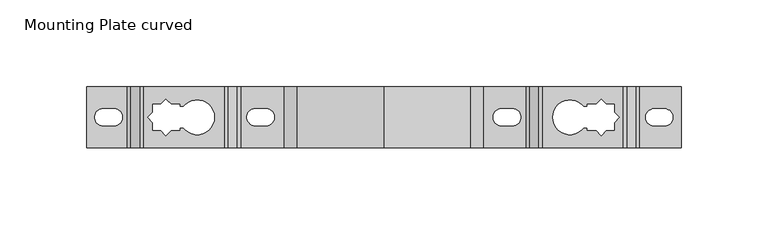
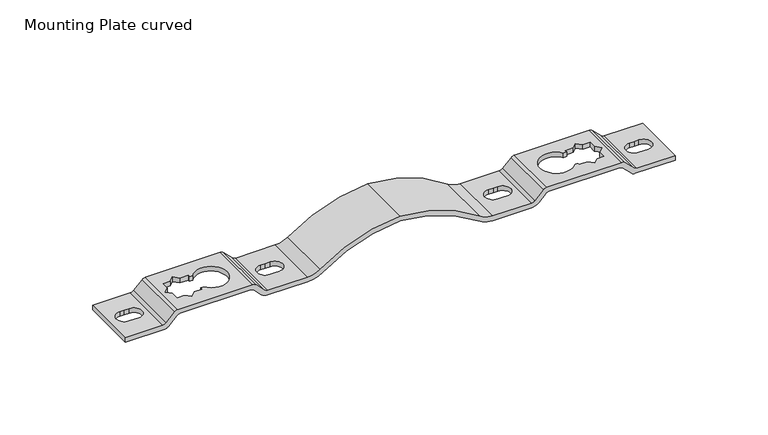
"""IFC4 building model written with IfcOpenShell, lengths in millimetres: valve geometry, Mounting Plate curved : Superpipe Mounting Plate - 250 mm curved."""

from ifc_helpers import new_model, si_unit, frame, origin, place, context, project, spatial, polyline, circle_curve, source, transform, mapped, element, save
from ifc_brep_helpers import plane_surface, cylinder_surface, revolved_surface, advanced_brep


def mounting_plate_curved_ba3850a4(model_context):
    return source(origin(), model_context, "Body", "AdvancedBrep", [
        advanced_brep(
        [(0.0, 0.0, 3.0), (0.0, 0.0, 0.0), (24.5, 0.0, 0.0), (26.6213203, 0.0, 0.8786797), (31.863961, 0.0, 6.1213203), (33.9852814, 0.0, 7.0), (78.0147186, 0.0, 7.0), (80.136039, 0.0, 6.1213203), (84.5, 0.0, 1.7573593), (88.7426407, 0.0, 0.0), (113.5579962, 0.0, 0.0), (122.9363512, 0.0, 3.0367266), (171.0, 0.0, 19.9960509), (219.0636488, 0.0, 3.0367266), (228.4420038, 0.0, 0.0), (252.7573593, 0.0, 0.0), (257.0, 0.0, 1.7573593), (261.363961, 0.0, 6.1213203), (263.4852814, 0.0, 7.0), (307.5147186, 0.0, 7.0), (309.636039, 0.0, 6.1213203), (314.8786797, 0.0, 0.8786797), (317.0, 0.0, 0.0), (342.0, 0.0, 0.0), (342.0, 0.0, 3.0), (318.2426407, 0.0, 3.0), (316.1213203, 0.0, 3.8786797), (310.8786797, 0.0, 9.1213203), (308.7573593, 0.0, 10.0), (262.2426407, 0.0, 10.0), (260.1213203, 0.0, 9.1213203), (254.8786797, 0.0, 3.8786797), (252.7573593, 0.0, 3.0), (228.4420038, 0.0, 3.0), (220.8220904, 0.0, 5.4673403), (171.0, 0.0, 23.0), (121.1779096, 0.0, 5.4673403), (113.5579962, 0.0, 3.0), (88.7426407, 0.0, 3.0), (86.6213203, 0.0, 3.8786797), (81.3786797, 0.0, 9.1213203), (79.2573593, 0.0, 10.0), (32.7426407, 0.0, 10.0), (30.6213203, 0.0, 9.1213203), (25.3786797, 0.0, 3.8786797), (23.2573593, 0.0, 3.0), (0.0, 35.0, 3.0), (23.2573593, 35.0, 3.0), (25.3786797, 35.0, 3.8786797), (30.6213203, 35.0, 9.1213203), (32.7426407, 35.0, 10.0), (79.2573593, 35.0, 10.0), (81.3786797, 35.0, 9.1213203), (86.6213203, 35.0, 3.8786797), (88.7426407, 35.0, 3.0), (113.5579962, 35.0, 3.0), (121.1779096, 35.0, 5.4673403), (171.0, 35.0, 23.0), (220.8220904, 35.0, 5.4673403), (228.4420038, 35.0, 3.0), (252.7573593, 35.0, 3.0), (254.8786797, 35.0, 3.8786797), (260.1213203, 35.0, 9.1213203), (262.2426407, 35.0, 10.0), (308.7573593, 35.0, 10.0), (310.8786797, 35.0, 9.1213203), (316.1213203, 35.0, 3.8786797), (318.2426407, 35.0, 3.0), (342.0, 35.0, 3.0), (342.0, 35.0, 0.0), (317.0, 35.0, 0.0), (314.8786797, 35.0, 0.8786797), (309.636039, 35.0, 6.1213203), (307.5147186, 35.0, 7.0), (263.4852814, 35.0, 7.0), (261.363961, 35.0, 6.1213203), (257.0, 35.0, 1.7573593), (252.7573593, 35.0, 0.0), (228.4420038, 35.0, 0.0), (219.0636488, 35.0, 3.0367266), (171.0, 35.0, 19.9960509), (122.9363512, 35.0, 3.0367266), (113.5579962, 35.0, 0.0), (88.7426407, 35.0, 0.0), (84.5, 35.0, 1.7573593), (80.136039, 35.0, 6.1213203), (78.0147186, 35.0, 7.0), (33.9852814, 35.0, 7.0), (31.863961, 35.0, 6.1213203), (26.6213203, 35.0, 0.8786797), (24.5, 35.0, 0.0), (0.0, 35.0, 0.0), (9.4921718, 22.5347729, 0.0), (9.4921718, 12.5504293, 0.0), (12.4921718, 12.5504293, 0.0), (15.4921718, 12.5504293, 0.0), (15.4921718, 22.5347729, 0.0), (12.4921718, 22.5347729, 0.0), (38.0, 25.0, 7.0), (38.0, 20.5, 7.0), (35.0, 17.5, 7.0), (38.0, 14.5, 7.0), (38.0, 9.9308526, 7.0), (42.4308572, 9.9308526, 7.0), (45.4308572, 6.9652271, 7.0), (48.4308572, 10.0, 7.0), (53.4308572, 10.0, 7.0), (53.4308572, 11.5, 7.0), (55.4343797, 11.5, 7.0), (55.4343797, 23.5, 7.0), (53.4308572, 23.5, 7.0), (53.4308572, 25.0, 7.0), (48.4308572, 25.0, 7.0), (45.4308572, 27.9652271, 7.0), (42.5, 25.0, 7.0), (97.0, 22.5347729, 0.0), (97.0, 12.6008585, 0.0), (100.0, 12.6008585, 0.0), (103.0330428, 12.6008585, 0.0), (103.0330428, 22.5347729, 0.0), (100.0, 22.5347729, 0.0), (244.75, 12.5, 0.0), (244.75, 22.5, 0.0), (241.75, 22.5, 0.0), (238.75, 22.5, 0.0), (238.75, 12.5, 0.0), (241.75, 12.5, 0.0), (303.4573426, 20.5, 7.0), (303.4573426, 25.0, 7.0), (298.9573426, 25.0, 7.0), (296.0264854, 27.9652271, 7.0), (293.0264854, 25.0, 7.0), (288.0264854, 25.0, 7.0), (288.0264854, 23.5, 7.0), (286.022963, 23.5, 7.0), (286.022963, 11.5, 7.0), (288.0264854, 11.5, 7.0), (288.0264854, 10.0, 7.0), (293.0264854, 10.0, 7.0), (296.0264854, 6.9652271, 7.0), (299.0264854, 9.9308526, 7.0), (303.4573426, 9.9308526, 7.0), (303.4573426, 14.5, 7.0), (306.4573426, 17.5, 7.0), (332.4243561, 12.5504293, 0.0), (332.4243561, 22.3991415, 0.0), (329.4243561, 22.3991415, 0.0), (326.4243561, 22.3991415, 0.0), (326.4243561, 12.5504293, 0.0), (329.4243561, 12.5504293, 0.0), (332.4243561, 22.3991415, 3.0), (332.4243561, 12.5504293, 3.0), (329.4243561, 12.5504293, 3.0), (326.4243561, 12.5504293, 3.0), (326.4243561, 22.3991415, 3.0), (329.4243561, 22.3991415, 3.0), (303.4573426, 25.0, 10.0), (303.4573426, 20.5, 10.0), (306.4573426, 17.5, 10.0), (303.4573426, 14.5, 10.0), (303.4573426, 9.9308526, 10.0), (299.0264854, 9.9308526, 10.0), (296.0264854, 6.9652271, 10.0), (293.0264854, 10.0, 10.0), (288.0264854, 10.0, 10.0), (288.0264854, 11.5, 10.0), (286.022963, 11.5, 10.0), (286.022963, 23.5, 10.0), (288.0264854, 23.5, 10.0), (288.0264854, 25.0, 10.0), (293.0264854, 25.0, 10.0), (296.0264854, 27.9652271, 10.0), (298.9573426, 25.0, 10.0), (244.75, 22.5, 3.0), (244.75, 12.5, 3.0), (241.75, 12.5, 3.0), (238.75, 12.5, 3.0), (238.75, 22.5, 3.0), (241.75, 22.5, 3.0), (97.0, 12.6008585, 3.0), (97.0, 22.5347729, 3.0), (100.0, 22.5347729, 3.0), (103.0330428, 22.5347729, 3.0), (103.0330428, 12.6008585, 3.0), (100.0, 12.6008585, 3.0), (38.0, 20.5, 10.0), (38.0, 25.0, 10.0), (42.5, 25.0, 10.0), (45.4308572, 27.9652271, 10.0), (48.4308572, 25.0, 10.0), (53.4308572, 25.0, 10.0), (53.4308572, 23.5, 10.0), (55.4343797, 23.5, 10.0), (55.4343797, 11.5, 10.0), (53.4308572, 11.5, 10.0), (53.4308572, 10.0, 10.0), (48.4308572, 10.0, 10.0), (45.4308572, 6.9652271, 10.0), (42.4308572, 9.9308526, 10.0), (38.0, 9.9308526, 10.0), (38.0, 14.5, 10.0), (35.0, 17.5, 10.0), (9.4921718, 12.5504293, 3.0), (9.4921718, 22.5347729, 3.0), (12.4921718, 22.5347729, 3.0), (15.4921718, 22.5347729, 3.0), (15.4921718, 12.5504293, 3.0), (12.4921718, 12.5504293, 3.0)],
        [
            (0, 1),
            (1, 2),
            (2, 3, circle_curve(frame((24.5, 0.0, 3.0), z_axis=(0.0, -1.0, 0.0), x_axis=(1.0, 0.0, 0.0)), 3.0)),
            (3, 4),
            (4, 5, circle_curve(frame((33.9852814, 0.0, 4.0), z_axis=(0.0, 1.0, 0.0), x_axis=(1.0, 0.0, 0.0)), 3.0)),
            (5, 6),
            (6, 7, circle_curve(frame((78.0147186, 0.0, 4.0), z_axis=(0.0, 1.0, 0.0), x_axis=(1.0, 0.0, 0.0)), 3.0)),
            (7, 8),
            (8, 9, circle_curve(frame((88.7426407, 0.0, 6.0), z_axis=(0.0, -1.0, 0.0), x_axis=(1.0, 0.0, 0.0)), 6.0)),
            (9, 10),
            (10, 11, circle_curve(frame((113.5579962, 0.0, 16.0), z_axis=(0.0, -1.0, 0.0), x_axis=(1.0, 0.0, 0.0)), 16.0)),
            (11, 12, circle_curve(frame((175.689598, 0.0, -69.8816864), z_axis=(0.0, 1.0, 0.0), x_axis=(1.0, 0.0, 0.0)), 90.0)),
            (12, 13, circle_curve(frame((166.310402, 0.0, -69.8816864), z_axis=(0.0, 1.0, 0.0), x_axis=(1.0, 0.0, 0.0)), 90.0)),
            (13, 14, circle_curve(frame((228.4420038, 0.0, 16.0), z_axis=(0.0, -1.0, 0.0), x_axis=(1.0, 0.0, 0.0)), 16.0)),
            (14, 15),
            (15, 16, circle_curve(frame((252.7573593, 0.0, 6.0), z_axis=(0.0, -1.0, 0.0), x_axis=(1.0, 0.0, 0.0)), 6.0)),
            (16, 17),
            (17, 18, circle_curve(frame((263.4852814, 0.0, 4.0), z_axis=(0.0, 1.0, 0.0), x_axis=(1.0, 0.0, 0.0)), 3.0)),
            (18, 19),
            (19, 20, circle_curve(frame((307.5147186, 0.0, 4.0), z_axis=(0.0, 1.0, 0.0), x_axis=(1.0, 0.0, 0.0)), 3.0)),
            (20, 21),
            (21, 22, circle_curve(frame((317.0, 0.0, 3.0), z_axis=(0.0, -1.0, 0.0), x_axis=(1.0, 0.0, 0.0)), 3.0)),
            (22, 23),
            (23, 24),
            (24, 25),
            (25, 26, circle_curve(frame((318.2426407, 0.0, 6.0), z_axis=(0.0, 1.0, 0.0), x_axis=(1.0, 0.0, 0.0)), 3.0)),
            (26, 27),
            (27, 28, circle_curve(frame((308.7573593, 0.0, 7.0), z_axis=(0.0, -1.0, 0.0), x_axis=(1.0, 0.0, 0.0)), 3.0)),
            (28, 29),
            (29, 30, circle_curve(frame((262.2426407, 0.0, 7.0), z_axis=(0.0, -1.0, 0.0), x_axis=(1.0, 0.0, 0.0)), 3.0)),
            (30, 31),
            (31, 32, circle_curve(frame((252.7573593, 0.0, 6.0), z_axis=(0.0, 1.0, 0.0), x_axis=(1.0, 0.0, 0.0)), 3.0)),
            (32, 33),
            (33, 34, circle_curve(frame((228.4420038, 0.0, 16.0), z_axis=(0.0, 1.0, 0.0), x_axis=(1.0, 0.0, 0.0)), 13.0)),
            (34, 35, circle_curve(frame((166.310402, 0.0, -69.8816864), z_axis=(0.0, -1.0, 0.0), x_axis=(1.0, 0.0, 0.0)), 93.0)),
            (35, 36, circle_curve(frame((175.689598, 0.0, -69.8816864), z_axis=(0.0, -1.0, 0.0), x_axis=(1.0, 0.0, 0.0)), 93.0)),
            (36, 37, circle_curve(frame((113.5579962, 0.0, 16.0), z_axis=(0.0, 1.0, 0.0), x_axis=(1.0, 0.0, 0.0)), 13.0)),
            (37, 38),
            (38, 39, circle_curve(frame((88.7426407, 0.0, 6.0), z_axis=(0.0, 1.0, 0.0), x_axis=(1.0, 0.0, 0.0)), 3.0)),
            (39, 40),
            (40, 41, circle_curve(frame((79.2573593, 0.0, 7.0), z_axis=(0.0, -1.0, 0.0), x_axis=(1.0, 0.0, 0.0)), 3.0)),
            (41, 42),
            (42, 43, circle_curve(frame((32.7426407, 0.0, 7.0), z_axis=(0.0, -1.0, 0.0), x_axis=(1.0, 0.0, 0.0)), 3.0)),
            (43, 44),
            (44, 45, circle_curve(frame((23.2573593, 0.0, 6.0), z_axis=(0.0, 1.0, 0.0), x_axis=(1.0, 0.0, 0.0)), 3.0)),
            (45, 0),
            (46, 47),
            (47, 48, circle_curve(frame((23.2573593, 35.0, 6.0), z_axis=(0.0, -1.0, 0.0), x_axis=(1.0, 0.0, 0.0)), 3.0)),
            (48, 49),
            (49, 50, circle_curve(frame((32.7426407, 35.0, 7.0), z_axis=(0.0, 1.0, 0.0), x_axis=(1.0, 0.0, 0.0)), 3.0)),
            (50, 51),
            (51, 52, circle_curve(frame((79.2573593, 35.0, 7.0), z_axis=(0.0, 1.0, 0.0), x_axis=(1.0, 0.0, 0.0)), 3.0)),
            (52, 53),
            (53, 54, circle_curve(frame((88.7426407, 35.0, 6.0), z_axis=(0.0, -1.0, 0.0), x_axis=(1.0, 0.0, 0.0)), 3.0)),
            (54, 55),
            (55, 56, circle_curve(frame((113.5579962, 35.0, 16.0), z_axis=(0.0, -1.0, 0.0), x_axis=(1.0, 0.0, 0.0)), 13.0)),
            (56, 57, circle_curve(frame((175.689598, 35.0, -69.8816864), z_axis=(0.0, 1.0, 0.0), x_axis=(1.0, 0.0, 0.0)), 93.0)),
            (57, 58, circle_curve(frame((166.310402, 35.0, -69.8816864), z_axis=(0.0, 1.0, 0.0), x_axis=(1.0, 0.0, 0.0)), 93.0)),
            (58, 59, circle_curve(frame((228.4420038, 35.0, 16.0), z_axis=(0.0, -1.0, 0.0), x_axis=(1.0, 0.0, 0.0)), 13.0)),
            (59, 60),
            (60, 61, circle_curve(frame((252.7573593, 35.0, 6.0), z_axis=(0.0, -1.0, 0.0), x_axis=(1.0, 0.0, 0.0)), 3.0)),
            (61, 62),
            (62, 63, circle_curve(frame((262.2426407, 35.0, 7.0), z_axis=(0.0, 1.0, 0.0), x_axis=(1.0, 0.0, 0.0)), 3.0)),
            (63, 64),
            (64, 65, circle_curve(frame((308.7573593, 35.0, 7.0), z_axis=(0.0, 1.0, 0.0), x_axis=(1.0, 0.0, 0.0)), 3.0)),
            (65, 66),
            (66, 67, circle_curve(frame((318.2426407, 35.0, 6.0), z_axis=(0.0, -1.0, 0.0), x_axis=(1.0, 0.0, 0.0)), 3.0)),
            (67, 68),
            (68, 69),
            (69, 70),
            (70, 71, circle_curve(frame((317.0, 35.0, 3.0), z_axis=(0.0, 1.0, 0.0), x_axis=(1.0, 0.0, 0.0)), 3.0)),
            (71, 72),
            (72, 73, circle_curve(frame((307.5147186, 35.0, 4.0), z_axis=(0.0, -1.0, 0.0), x_axis=(1.0, 0.0, 0.0)), 3.0)),
            (73, 74),
            (74, 75, circle_curve(frame((263.4852814, 35.0, 4.0), z_axis=(0.0, -1.0, 0.0), x_axis=(1.0, 0.0, 0.0)), 3.0)),
            (75, 76),
            (76, 77, circle_curve(frame((252.7573593, 35.0, 6.0), z_axis=(0.0, 1.0, 0.0), x_axis=(1.0, 0.0, 0.0)), 6.0)),
            (77, 78),
            (78, 79, circle_curve(frame((228.4420038, 35.0, 16.0), z_axis=(0.0, 1.0, 0.0), x_axis=(1.0, 0.0, 0.0)), 16.0)),
            (79, 80, circle_curve(frame((166.310402, 35.0, -69.8816864), z_axis=(0.0, -1.0, 0.0), x_axis=(1.0, 0.0, 0.0)), 90.0)),
            (80, 81, circle_curve(frame((175.689598, 35.0, -69.8816864), z_axis=(0.0, -1.0, 0.0), x_axis=(1.0, 0.0, 0.0)), 90.0)),
            (81, 82, circle_curve(frame((113.5579962, 35.0, 16.0), z_axis=(0.0, 1.0, 0.0), x_axis=(1.0, 0.0, 0.0)), 16.0)),
            (82, 83),
            (83, 84, circle_curve(frame((88.7426407, 35.0, 6.0), z_axis=(0.0, 1.0, 0.0), x_axis=(1.0, 0.0, 0.0)), 6.0)),
            (84, 85),
            (85, 86, circle_curve(frame((78.0147186, 35.0, 4.0), z_axis=(0.0, -1.0, 0.0), x_axis=(1.0, 0.0, 0.0)), 3.0)),
            (86, 87),
            (87, 88, circle_curve(frame((33.9852814, 35.0, 4.0), z_axis=(0.0, -1.0, 0.0), x_axis=(1.0, 0.0, 0.0)), 3.0)),
            (88, 89),
            (89, 90, circle_curve(frame((24.5, 35.0, 3.0), z_axis=(0.0, 1.0, 0.0), x_axis=(1.0, 0.0, 0.0)), 3.0)),
            (90, 91),
            (91, 46),
            (0, 46),
            (91, 1),
            (90, 2),
            (92, 93, circle_curve(frame((9.4921718, 17.5426011, 0.0), z_axis=(0.0, 0.0, 1.0), x_axis=(1.0, 0.0, 0.0)), 4.9921718)),
            (93, 94),
            (94, 95),
            (95, 96, circle_curve(frame((15.4921718, 17.5426011, 0.0), z_axis=(0.0, 0.0, 1.0), x_axis=(1.0, 0.0, 0.0)), 4.9921718)),
            (96, 97),
            (97, 92),
            (89, 3),
            (88, 4),
            (87, 5),
            (86, 6),
            (98, 99),
            (99, 100),
            (100, 101),
            (101, 102),
            (102, 103),
            (103, 104),
            (104, 105),
            (105, 106),
            (106, 107),
            (107, 108),
            (108, 109, circle_curve(frame((63.4095897, 17.5, 7.0), z_axis=(0.0, 0.0, 1.0), x_axis=(-1.0, 0.0, 0.0)), 9.9801791)),
            (109, 110),
            (110, 111),
            (111, 112),
            (112, 113),
            (113, 114),
            (114, 98),
            (85, 7),
            (84, 8),
            (83, 9),
            (82, 10),
            (115, 116, circle_curve(frame((97.0, 17.5678157, 0.0), z_axis=(0.0, 0.0, 1.0), x_axis=(1.0, 0.0, 0.0)), 4.9669572)),
            (116, 117),
            (117, 118),
            (118, 119, circle_curve(frame((103.0330428, 17.5678157, 0.0), z_axis=(0.0, 0.0, 1.0), x_axis=(1.0, 0.0, 0.0)), 4.9669572)),
            (119, 120),
            (120, 115),
            (81, 11),
            (80, 12),
            (79, 13),
            (78, 14),
            (77, 15),
            (121, 122, circle_curve(frame((244.75, 17.5, 0.0), z_axis=(0.0, 0.0, 1.0), x_axis=(-1.0, 0.0, 0.0)), 5.0)),
            (122, 123),
            (123, 124),
            (124, 125, circle_curve(frame((238.75, 17.5, 0.0), z_axis=(0.0, 0.0, 1.0), x_axis=(-1.0, 0.0, 0.0)), 5.0)),
            (125, 126),
            (126, 121),
            (76, 16),
            (75, 17),
            (74, 18),
            (73, 19),
            (127, 128),
            (128, 129),
            (129, 130),
            (130, 131),
            (131, 132),
            (132, 133),
            (133, 134),
            (134, 135, circle_curve(frame((278.0477529, 17.5, 7.0), z_axis=(0.0, 0.0, 1.0), x_axis=(1.0, 0.0, 0.0)), 9.9801791)),
            (135, 136),
            (136, 137),
            (137, 138),
            (138, 139),
            (139, 140),
            (140, 141),
            (141, 142),
            (142, 143),
            (143, 127),
            (72, 20),
            (71, 21),
            (70, 22),
            (69, 23),
            (144, 145, circle_curve(frame((332.4243561, 17.4747854, 0.0), z_axis=(0.0, 0.0, 1.0), x_axis=(-1.0, 0.0, 0.0)), 4.9243561)),
            (145, 146),
            (146, 147),
            (147, 148, circle_curve(frame((326.4243561, 17.4747854, 0.0), z_axis=(0.0, 0.0, 1.0), x_axis=(-1.0, 0.0, 0.0)), 4.9243561)),
            (148, 149),
            (149, 144),
            (68, 24),
            (67, 25),
            (150, 151, circle_curve(frame((332.4243561, 17.4747854, 3.0), z_axis=(0.0, 0.0, -1.0), x_axis=(-1.0, 0.0, 0.0)), 4.9243561)),
            (151, 152),
            (152, 153),
            (153, 154, circle_curve(frame((326.4243561, 17.4747854, 3.0), z_axis=(0.0, 0.0, -1.0), x_axis=(-1.0, 0.0, 0.0)), 4.9243561)),
            (154, 155),
            (155, 150),
            (66, 26),
            (65, 27),
            (64, 28),
            (63, 29),
            (156, 157),
            (157, 158),
            (158, 159),
            (159, 160),
            (160, 161),
            (161, 162),
            (162, 163),
            (163, 164),
            (164, 165),
            (165, 166),
            (166, 167, circle_curve(frame((278.0477529, 17.5, 10.0), z_axis=(0.0, 0.0, -1.0), x_axis=(1.0, 0.0, 0.0)), 9.9801791)),
            (167, 168),
            (168, 169),
            (169, 170),
            (170, 171),
            (171, 172),
            (172, 156),
            (62, 30),
            (61, 31),
            (60, 32),
            (59, 33),
            (173, 174, circle_curve(frame((244.75, 17.5, 3.0), z_axis=(0.0, 0.0, -1.0), x_axis=(-1.0, 0.0, 0.0)), 5.0)),
            (174, 175),
            (175, 176),
            (176, 177, circle_curve(frame((238.75, 17.5, 3.0), z_axis=(0.0, 0.0, -1.0), x_axis=(-1.0, 0.0, 0.0)), 5.0)),
            (177, 178),
            (178, 173),
            (58, 34),
            (57, 35),
            (56, 36),
            (55, 37),
            (54, 38),
            (179, 180, circle_curve(frame((97.0, 17.5678157, 3.0), z_axis=(0.0, 0.0, -1.0), x_axis=(1.0, 0.0, 0.0)), 4.9669572)),
            (180, 181),
            (181, 182),
            (182, 183, circle_curve(frame((103.0330428, 17.5678157, 3.0), z_axis=(0.0, 0.0, -1.0), x_axis=(1.0, 0.0, 0.0)), 4.9669572)),
            (183, 184),
            (184, 179),
            (53, 39),
            (52, 40),
            (51, 41),
            (50, 42),
            (185, 186),
            (186, 187),
            (187, 188),
            (188, 189),
            (189, 190),
            (190, 191),
            (191, 192),
            (192, 193, circle_curve(frame((63.4095897, 17.5, 10.0), z_axis=(0.0, 0.0, -1.0), x_axis=(-1.0, 0.0, 0.0)), 9.9801791)),
            (193, 194),
            (194, 195),
            (195, 196),
            (196, 197),
            (197, 198),
            (198, 199),
            (199, 200),
            (200, 201),
            (201, 185),
            (49, 43),
            (48, 44),
            (47, 45),
            (202, 203, circle_curve(frame((9.4921718, 17.5426011, 3.0), z_axis=(0.0, 0.0, -1.0), x_axis=(1.0, 0.0, 0.0)), 4.9921718)),
            (203, 204),
            (204, 205),
            (205, 206, circle_curve(frame((15.4921718, 17.5426011, 3.0), z_axis=(0.0, 0.0, -1.0), x_axis=(1.0, 0.0, 0.0)), 4.9921718)),
            (206, 207),
            (207, 202),
            (202, 93),
            (92, 203),
            (207, 94),
            (206, 95),
            (205, 96),
            (204, 97),
            (185, 99),
            (98, 186),
            (114, 187),
            (113, 188),
            (112, 189),
            (111, 190),
            (191, 110),
            (109, 192),
            (194, 107),
            (106, 195),
            (105, 196),
            (104, 197),
            (103, 198),
            (102, 199),
            (101, 200),
            (100, 201),
            (108, 193),
            (179, 116),
            (115, 180),
            (184, 117),
            (183, 118),
            (182, 119),
            (181, 120),
            (173, 122),
            (121, 174),
            (126, 175),
            (125, 176),
            (124, 177),
            (123, 178),
            (156, 128),
            (127, 157),
            (172, 129),
            (171, 130),
            (170, 131),
            (169, 132),
            (167, 134),
            (133, 168),
            (164, 137),
            (136, 165),
            (163, 138),
            (162, 139),
            (161, 140),
            (160, 141),
            (159, 142),
            (158, 143),
            (166, 135),
            (150, 145),
            (144, 151),
            (149, 152),
            (148, 153),
            (147, 154),
            (146, 155),
        ],
        [
            plane_surface(frame((0.0, 0.0, 0.0), z_axis=(0.0, -1.0, 0.0), x_axis=(0.0, 0.0, -1.0))),
            plane_surface(frame((0.0, 35.0, 0.0), z_axis=(0.0, 1.0, 0.0), x_axis=(0.0, 0.0, 1.0))),
            plane_surface(frame((0.0, 0.0, 3.0), z_axis=(-1.0, 0.0, 0.0), x_axis=(0.0, 1.0, 0.0))),
            plane_surface(frame((0.0, 0.0, 0.0), z_axis=(8.576395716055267e-12, 0.0, -1.0), x_axis=(0.0, 1.0, 0.0))),
            cylinder_surface(frame((24.5, 35.0, 3.0), z_axis=(0.0, -1.0, 0.0), x_axis=(1.0, 0.0, 0.0)), 3.0),
            plane_surface(frame((26.6213203, 0.0, 0.8786797), z_axis=(0.7071067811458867, 0.0, -0.7071067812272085), x_axis=(0.0, 1.0, 0.0))),
            revolved_surface(polyline([(36.9852814, 35.0, 4.0), (36.9852814, 0.0, 4.0)]), (33.9852814, 35.0, 4.0), (0.0, 1.0, 0.0)),
            plane_surface(frame((33.9852814, 0.0, 7.0), z_axis=(2.818073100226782e-12, 0.0, -1.0), x_axis=(0.0, 1.0, 0.0))),
            revolved_surface(polyline([(81.0147186, 35.0, 4.0), (81.0147186, 0.0, 4.0)]), (78.0147186, 35.0, 4.0), (0.0, 1.0, 0.0)),
            plane_surface(frame((80.136039, 0.0, 6.1213203), z_axis=(-0.7071067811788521, 0.0, -0.7071067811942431), x_axis=(0.0, 1.0, 0.0))),
            cylinder_surface(frame((88.7426407, 35.0, 6.0), z_axis=(0.0, -1.0, 0.0), x_axis=(1.0, 0.0, 0.0)), 6.0),
            plane_surface(frame((88.7426407, 0.0, 0.0), z_axis=(1.7511042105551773e-12, 0.0, -1.0), x_axis=(0.0, 1.0, 0.0))),
            cylinder_surface(frame((113.5579962, 35.0, 16.0), z_axis=(0.0, -1.0, 0.0), x_axis=(1.0, 0.0, 0.0)), 16.0),
            revolved_surface(polyline([(265.689598, 35.0, -69.8816864), (265.689598, 0.0, -69.8816864)]), (175.689598, 35.0, -69.8816864), (0.0, 1.0, 0.0)),
            revolved_surface(polyline([(256.310402, 35.0, -69.8816864), (256.310402, 0.0, -69.8816864)]), (166.310402, 35.0, -69.8816864), (0.0, 1.0, 0.0)),
            cylinder_surface(frame((228.4420038, 35.0, 16.0), z_axis=(0.0, -1.0, 0.0), x_axis=(1.0, 0.0, 0.0)), 16.0),
            plane_surface(frame((228.4420038, 0.0, 0.0), z_axis=(8.526881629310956e-12, 0.0, -1.0), x_axis=(0.0, 1.0, 0.0))),
            cylinder_surface(frame((252.7573593, 35.0, 6.0), z_axis=(0.0, -1.0, 0.0), x_axis=(1.0, 0.0, 0.0)), 6.0),
            plane_surface(frame((257.0, 0.0, 1.7573593), z_axis=(0.7071067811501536, 0.0, -0.7071067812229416), x_axis=(0.0, 1.0, 0.0))),
            revolved_surface(polyline([(266.4852814, 35.0, 4.0), (266.4852814, 0.0, 4.0)]), (263.4852814, 35.0, 4.0), (0.0, 1.0, 0.0)),
            plane_surface(frame((263.4852814, 0.0, 7.0), z_axis=(1.103038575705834e-12, 0.0, -1.0), x_axis=(0.0, 1.0, 0.0))),
            revolved_surface(polyline([(310.5147186, 35.0, 4.0), (310.5147186, 0.0, 4.0)]), (307.5147186, 35.0, 4.0), (0.0, 1.0, 0.0)),
            plane_surface(frame((309.636039, 0.0, 6.1213203), z_axis=(-0.7071067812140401, 0.0, -0.7071067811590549), x_axis=(0.0, 1.0, 0.0))),
            cylinder_surface(frame((317.0, 35.0, 3.0), z_axis=(0.0, -1.0, 0.0), x_axis=(1.0, 0.0, 0.0)), 3.0),
            plane_surface(frame((317.0, 0.0, 0.0), z_axis=(0.0, 0.0, -1.0), x_axis=(0.0, 1.0, 0.0))),
            plane_surface(frame((342.0, 0.0, 0.0), z_axis=(1.0, 0.0, 0.0), x_axis=(0.0, 1.0, 0.0))),
            plane_surface(frame((342.0, 0.0, 3.0), z_axis=(0.0, 0.0, 1.0), x_axis=(0.0, 1.0, 0.0))),
            revolved_surface(polyline([(321.2426407, 35.0, 6.0), (321.2426407, 0.0, 6.0)]), (318.2426407, 35.0, 6.0), (0.0, 1.0, 0.0)),
            plane_surface(frame((316.1213203, 0.0, 3.8786797), z_axis=(0.7071067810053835, 0.0, 0.7071067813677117), x_axis=(0.0, 1.0, 0.0))),
            cylinder_surface(frame((308.7573593, 35.0, 7.0), z_axis=(0.0, -1.0, 0.0), x_axis=(1.0, 0.0, 0.0)), 3.0),
            plane_surface(frame((308.7573593, 0.0, 10.0), z_axis=(0.0, 0.0, 1.0), x_axis=(0.0, 1.0, 0.0))),
            cylinder_surface(frame((262.2426407, 35.0, 7.0), z_axis=(0.0, -1.0, 0.0), x_axis=(1.0, 0.0, 0.0)), 3.0),
            plane_surface(frame((260.1213203, 0.0, 9.1213203), z_axis=(-0.7071067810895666, 0.0, 0.7071067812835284), x_axis=(0.0, 1.0, 0.0))),
            revolved_surface(polyline([(255.7573593, 35.0, 6.0), (255.7573593, 0.0, 6.0)]), (252.7573593, 35.0, 6.0), (0.0, 1.0, 0.0)),
            plane_surface(frame((252.7573593, 0.0, 3.0), z_axis=(5.347942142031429e-12, 0.0, 1.0), x_axis=(0.0, 1.0, 0.0))),
            revolved_surface(polyline([(241.4420038, 35.0, 16.0), (241.4420038, 0.0, 16.0)]), (228.4420038, 35.0, 16.0), (0.0, 1.0, 0.0)),
            cylinder_surface(frame((166.310402, 35.0, -69.8816864), z_axis=(0.0, -1.0, 0.0), x_axis=(1.0, 0.0, 0.0)), 93.0),
            cylinder_surface(frame((175.689598, 35.0, -69.8816864), z_axis=(0.0, -1.0, 0.0), x_axis=(1.0, 0.0, 0.0)), 93.0),
            revolved_surface(polyline([(126.5579962, 35.0, 16.0), (126.5579962, 0.0, 16.0)]), (113.5579962, 35.0, 16.0), (0.0, 1.0, 0.0)),
            plane_surface(frame((113.5579962, 0.0, 3.0), z_axis=(-7.576853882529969e-12, 0.0, 1.0), x_axis=(0.0, 1.0, 0.0))),
            revolved_surface(polyline([(91.7426407, 35.0, 6.0), (91.7426407, 0.0, 6.0)]), (88.7426407, 35.0, 6.0), (0.0, 1.0, 0.0)),
            plane_surface(frame((86.6213203, 0.0, 3.8786797), z_axis=(0.7071067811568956, 0.0, 0.7071067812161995), x_axis=(0.0, 1.0, 0.0))),
            cylinder_surface(frame((79.2573593, 35.0, 7.0), z_axis=(0.0, -1.0, 0.0), x_axis=(1.0, 0.0, 0.0)), 3.0),
            plane_surface(frame((79.2573593, 0.0, 10.0), z_axis=(0.0, 0.0, 1.0), x_axis=(0.0, 1.0, 0.0))),
            cylinder_surface(frame((32.7426407, 35.0, 7.0), z_axis=(0.0, -1.0, 0.0), x_axis=(1.0, 0.0, 0.0)), 3.0),
            plane_surface(frame((30.6213203, 0.0, 9.1213203), z_axis=(-0.7071067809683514, 0.0, 0.7071067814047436), x_axis=(0.0, 1.0, 0.0))),
            revolved_surface(polyline([(26.2573593, 35.0, 6.0), (26.2573593, 0.0, 6.0)]), (23.2573593, 35.0, 6.0), (0.0, 1.0, 0.0)),
            plane_surface(frame((23.2573593, 0.0, 3.0), z_axis=(0.0, 0.0, 1.0), x_axis=(0.0, 1.0, 0.0))),
            revolved_surface(polyline([(14.484343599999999, 17.5426011, 3.0), (14.484343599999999, 17.5426011, 0.0)]), (9.4921718, 17.5426011, 0.0), (0.0, 0.0, 1.0)),
            plane_surface(frame((9.4921718, 12.5504293, 3.0), z_axis=(0.0, 1.0, 0.0), x_axis=(0.0, 0.0, -1.0))),
            plane_surface(frame((12.4921718, 12.5504293, 3.0), z_axis=(0.0, 1.0, 0.0), x_axis=(0.0, 0.0, -1.0))),
            revolved_surface(polyline([(20.4843436, 17.5426011, 3.0), (20.4843436, 17.5426011, 0.0)]), (15.4921718, 17.5426011, 0.0), (0.0, 0.0, 1.0)),
            plane_surface(frame((15.4921718, 22.5347729, 3.0), z_axis=(0.0, -1.0, 0.0), x_axis=(0.0, 0.0, -1.0))),
            plane_surface(frame((12.4921718, 22.5347729, 3.0), z_axis=(0.0, -1.0, 0.0), x_axis=(0.0, 0.0, -1.0))),
            plane_surface(frame((38.0, 25.0, 10.0), z_axis=(1.0, 0.0, 0.0), x_axis=(0.0, 0.0, -1.0))),
            plane_surface(frame((42.5, 25.0, 10.0), z_axis=(0.0, -1.0, 0.0), x_axis=(0.0, 0.0, -1.0))),
            plane_surface(frame((45.4308572, 27.9652271, 10.0), z_axis=(0.7112166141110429, -0.7029729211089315, 0.0), x_axis=(0.0, 0.0, -1.0))),
            plane_surface(frame((48.4308572, 25.0, 10.0), z_axis=(-0.7029729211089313, -0.7112166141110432, 0.0), x_axis=(0.0, 0.0, -1.0))),
            plane_surface(frame((53.4308572, 25.0, 10.0), z_axis=(0.0, -1.0, 0.0), x_axis=(0.0, 0.0, -1.0))),
            plane_surface(frame((55.4343797, 23.5, 10.0), z_axis=(0.0, -1.0, 0.0), x_axis=(0.0, 0.0, -1.0))),
            plane_surface(frame((53.4308572, 10.0, 10.0), z_axis=(-1.0, 0.0, 0.0), x_axis=(0.0, 0.0, -1.0))),
            plane_surface(frame((48.4308572, 10.0, 10.0), z_axis=(0.0, 1.0, 0.0), x_axis=(0.0, 0.0, -1.0))),
            plane_surface(frame((45.4308572, 6.9652271, 10.0), z_axis=(-0.7111693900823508, 0.703020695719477, 0.0), x_axis=(0.0, 0.0, -1.0))),
            plane_surface(frame((42.4308572, 9.9308526, 10.0), z_axis=(0.7030206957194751, 0.7111693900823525, 0.0), x_axis=(0.0, 0.0, -1.0))),
            plane_surface(frame((38.0, 9.9308526, 10.0), z_axis=(0.0, 1.0, 0.0), x_axis=(0.0, 0.0, -1.0))),
            plane_surface(frame((38.0, 14.5, 10.0), z_axis=(1.0, 0.0, 0.0), x_axis=(0.0, 0.0, -1.0))),
            plane_surface(frame((35.0, 17.5, 10.0), z_axis=(0.707106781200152, 0.7071067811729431, 0.0), x_axis=(0.0, 0.0, -1.0))),
            plane_surface(frame((38.0, 20.5, 10.0), z_axis=(0.7071067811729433, -0.7071067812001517, 0.0), x_axis=(0.0, 0.0, -1.0))),
            plane_surface(frame((53.4308572, 23.5, 10.0), z_axis=(-1.0, 0.0, 0.0), x_axis=(0.0, 0.0, -1.0))),
            revolved_surface(polyline([(53.4294106, 17.5, 10.0), (53.4294106, 17.5, 7.0)]), (63.4095897, 17.5, 7.0), (0.0, 0.0, 1.0)),
            plane_surface(frame((53.4308572, 11.5, 10.0), z_axis=(2.082437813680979e-11, 1.0, 0.0), x_axis=(0.0, 0.0, -1.0))),
            revolved_surface(polyline([(101.9669572, 17.5678157, 3.0), (101.9669572, 17.5678157, 0.0)]), (97.0, 17.5678157, 0.0), (0.0, 0.0, 1.0)),
            plane_surface(frame((97.0, 12.6008585, 3.0), z_axis=(0.0, 1.0, 0.0), x_axis=(0.0, 0.0, -1.0))),
            plane_surface(frame((100.0, 12.6008585, 3.0), z_axis=(0.0, 1.0, 0.0), x_axis=(0.0, 0.0, -1.0))),
            revolved_surface(polyline([(108.0, 17.5678157, 3.0), (108.0, 17.5678157, 0.0)]), (103.0330428, 17.5678157, 0.0), (0.0, 0.0, 1.0)),
            plane_surface(frame((103.0330428, 22.5347729, 3.0), z_axis=(0.0, -1.0, 0.0), x_axis=(0.0, 0.0, -1.0))),
            plane_surface(frame((100.0, 22.5347729, 3.0), z_axis=(0.0, -1.0, 0.0), x_axis=(0.0, 0.0, -1.0))),
            revolved_surface(polyline([(239.75, 17.5, 3.0), (239.75, 17.5, 0.0)]), (244.75, 17.5, 0.0), (0.0, 0.0, 1.0)),
            plane_surface(frame((241.75, 12.5, 3.0), z_axis=(0.0, 1.0, 0.0), x_axis=(0.0, 0.0, -1.0))),
            plane_surface(frame((238.75, 12.5, 3.0), z_axis=(0.0, 1.0, 0.0), x_axis=(0.0, 0.0, -1.0))),
            revolved_surface(polyline([(233.75, 17.5, 3.0), (233.75, 17.5, 0.0)]), (238.75, 17.5, 0.0), (0.0, 0.0, 1.0)),
            plane_surface(frame((241.75, 22.5, 3.0), z_axis=(0.0, -1.0, 0.0), x_axis=(0.0, 0.0, -1.0))),
            plane_surface(frame((244.75, 22.5, 3.0), z_axis=(0.0, -1.0, 0.0), x_axis=(0.0, 0.0, -1.0))),
            plane_surface(frame((303.4573426, 20.5, 10.0), z_axis=(-1.0, 0.0, 0.0), x_axis=(0.0, 0.0, -1.0))),
            plane_surface(frame((303.4573426, 25.0, 10.0), z_axis=(0.0, -1.0, 0.0), x_axis=(0.0, 0.0, -1.0))),
            plane_surface(frame((298.9573426, 25.0, 10.0), z_axis=(-0.711216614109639, -0.7029729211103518, 0.0), x_axis=(0.0, 0.0, -1.0))),
            plane_surface(frame((296.0264854, 27.9652271, 10.0), z_axis=(0.7029729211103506, -0.7112166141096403, 0.0), x_axis=(0.0, 0.0, -1.0))),
            plane_surface(frame((293.0264854, 25.0, 10.0), z_axis=(0.0, -1.0, 0.0), x_axis=(0.0, 0.0, -1.0))),
            plane_surface(frame((288.0264854, 23.5, 10.0), z_axis=(0.0, -1.0, 0.0), x_axis=(0.0, 0.0, -1.0))),
            plane_surface(frame((288.0264854, 11.5, 10.0), z_axis=(1.0, 0.0, 0.0), x_axis=(0.0, 0.0, -1.0))),
            plane_surface(frame((288.0264854, 10.0, 10.0), z_axis=(0.0, 1.0, 0.0), x_axis=(0.0, 0.0, -1.0))),
            plane_surface(frame((293.0264854, 10.0, 10.0), z_axis=(0.7111693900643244, 0.7030206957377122, 0.0), x_axis=(0.0, 0.0, -1.0))),
            plane_surface(frame((296.0264854, 6.9652271, 10.0), z_axis=(-0.7030206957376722, 0.7111693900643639, 0.0), x_axis=(0.0, 0.0, -1.0))),
            plane_surface(frame((299.0264854, 9.9308526, 10.0), z_axis=(0.0, 1.0, 0.0), x_axis=(0.0, 0.0, -1.0))),
            plane_surface(frame((303.4573426, 9.9308526, 10.0), z_axis=(-1.0, 0.0, 0.0), x_axis=(0.0, 0.0, -1.0))),
            plane_surface(frame((303.4573426, 14.5, 10.0), z_axis=(-0.7071067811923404, 0.7071067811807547, 0.0), x_axis=(0.0, 0.0, -1.0))),
            plane_surface(frame((306.4573426, 17.5, 10.0), z_axis=(-0.7071067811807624, -0.7071067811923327, 0.0), x_axis=(0.0, 0.0, -1.0))),
            plane_surface(frame((288.0264854, 25.0, 10.0), z_axis=(1.0, 0.0, 0.0), x_axis=(0.0, 0.0, -1.0))),
            revolved_surface(polyline([(288.02793199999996, 17.5, 10.0), (288.02793199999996, 17.5, 7.0)]), (278.0477529, 17.5, 7.0), (0.0, 0.0, 1.0)),
            plane_surface(frame((286.022963, 11.5, 10.0), z_axis=(0.0, 1.0, 0.0), x_axis=(0.0, 0.0, -1.0))),
            revolved_surface(polyline([(327.5, 17.4747854, 3.0), (327.5, 17.4747854, 0.0)]), (332.4243561, 17.4747854, 0.0), (0.0, 0.0, 1.0)),
            plane_surface(frame((329.4243561, 12.5504293, 3.0), z_axis=(0.0, 1.0, 0.0), x_axis=(0.0, 0.0, -1.0))),
            plane_surface(frame((326.4243561, 12.5504293, 3.0), z_axis=(0.0, 1.0, 0.0), x_axis=(0.0, 0.0, -1.0))),
            revolved_surface(polyline([(321.5, 17.4747854, 3.0), (321.5, 17.4747854, 0.0)]), (326.4243561, 17.4747854, 0.0), (0.0, 0.0, 1.0)),
            plane_surface(frame((329.4243561, 22.3991415, 3.0), z_axis=(0.0, -1.0, 0.0), x_axis=(0.0, 0.0, -1.0))),
            plane_surface(frame((332.4243561, 22.3991415, 3.0), z_axis=(0.0, -1.0, 0.0), x_axis=(0.0, 0.0, -1.0))),
        ],
        [
            (0, [[1, 2, 3, 4, 5, 6, 7, 8, 9, 10, 11, 12, 13, 14, 15, 16, 17, 18, 19, 20, 21, 22, 23, 24, 25, 26, 27, 28, 29, 30, 31, 32, 33, 34, 35, 36, 37, 38, 39, 40, 41, 42, 43, 44, 45, 46]]),
            (1, [[47, 48, 49, 50, 51, 52, 53, 54, 55, 56, 57, 58, 59, 60, 61, 62, 63, 64, 65, 66, 67, 68, 69, 70, 71, 72, 73, 74, 75, 76, 77, 78, 79, 80, 81, 82, 83, 84, 85, 86, 87, 88, 89, 90, 91, 92]]),
            (2, [[-1, 93, -92, 94]]),
            (3, [[-2, -94, -91, 95], [96, 97, 98, 99, 100, 101]]),
            (4, [[-3, -95, -90, 102]]),
            (5, [[-4, -102, -89, 103]]),
            (6, [[-5, -103, -88, 104]]),
            (7, [[-6, -104, -87, 105], [106, 107, 108, 109, 110, 111, 112, 113, 114, 115, 116, 117, 118, 119, 120, 121, 122]]),
            (8, [[-7, -105, -86, 123]]),
            (9, [[-8, -123, -85, 124]]),
            (10, [[-9, -124, -84, 125]]),
            (11, [[-10, -125, -83, 126], [127, 128, 129, 130, 131, 132]]),
            (12, [[-11, -126, -82, 133]]),
            (13, [[-12, -133, -81, 134]]),
            (14, [[-13, -134, -80, 135]]),
            (15, [[-14, -135, -79, 136]]),
            (16, [[-15, -136, -78, 137], [138, 139, 140, 141, 142, 143]]),
            (17, [[-16, -137, -77, 144]]),
            (18, [[-17, -144, -76, 145]]),
            (19, [[-18, -145, -75, 146]]),
            (20, [[-19, -146, -74, 147], [148, 149, 150, 151, 152, 153, 154, 155, 156, 157, 158, 159, 160, 161, 162, 163, 164]]),
            (21, [[-20, -147, -73, 165]]),
            (22, [[-21, -165, -72, 166]]),
            (23, [[-22, -166, -71, 167]]),
            (24, [[-23, -167, -70, 168], [169, 170, 171, 172, 173, 174]]),
            (25, [[-24, -168, -69, 175]]),
            (26, [[-25, -175, -68, 176], [177, 178, 179, 180, 181, 182]]),
            (27, [[-26, -176, -67, 183]]),
            (28, [[-27, -183, -66, 184]]),
            (29, [[-28, -184, -65, 185]]),
            (30, [[-29, -185, -64, 186], [187, 188, 189, 190, 191, 192, 193, 194, 195, 196, 197, 198, 199, 200, 201, 202, 203]]),
            (31, [[-30, -186, -63, 204]]),
            (32, [[-31, -204, -62, 205]]),
            (33, [[-32, -205, -61, 206]]),
            (34, [[-33, -206, -60, 207], [208, 209, 210, 211, 212, 213]]),
            (35, [[-34, -207, -59, 214]]),
            (36, [[-35, -214, -58, 215]]),
            (37, [[-36, -215, -57, 216]]),
            (38, [[-37, -216, -56, 217]]),
            (39, [[-38, -217, -55, 218], [219, 220, 221, 222, 223, 224]]),
            (40, [[-39, -218, -54, 225]]),
            (41, [[-40, -225, -53, 226]]),
            (42, [[-41, -226, -52, 227]]),
            (43, [[-42, -227, -51, 228], [229, 230, 231, 232, 233, 234, 235, 236, 237, 238, 239, 240, 241, 242, 243, 244, 245]]),
            (44, [[-43, -228, -50, 246]]),
            (45, [[-44, -246, -49, 247]]),
            (46, [[-45, -247, -48, 248]]),
            (47, [[-46, -248, -47, -93], [249, 250, 251, 252, 253, 254]]),
            (48, [[255, -96, 256, -249]]),
            (49, [[-255, -254, 257, -97]]),
            (50, [[-257, -253, 258, -98]]),
            (51, [[-258, -252, 259, -99]]),
            (52, [[-259, -251, 260, -100]]),
            (53, [[-256, -101, -260, -250]]),
            (54, [[261, -106, 262, -229]]),
            (55, [[-262, -122, 263, -230]]),
            (56, [[-263, -121, 264, -231]]),
            (57, [[-264, -120, 265, -232]]),
            (58, [[-265, -119, 266, -233]]),
            (59, [[267, -117, 268, -235]]),
            (60, [[269, -114, 270, -238]]),
            (61, [[-270, -113, 271, -239]]),
            (62, [[-271, -112, 272, -240]]),
            (63, [[-272, -111, 273, -241]]),
            (64, [[-273, -110, 274, -242]]),
            (65, [[-274, -109, 275, -243]]),
            (66, [[-275, -108, 276, -244]]),
            (67, [[-261, -245, -276, -107]]),
            (68, [[-266, -118, -267, -234]]),
            (69, [[-268, -116, 277, -236]]),
            (70, [[-269, -237, -277, -115]]),
            (71, [[278, -127, 279, -219]]),
            (72, [[-278, -224, 280, -128]]),
            (73, [[-280, -223, 281, -129]]),
            (74, [[-281, -222, 282, -130]]),
            (75, [[-282, -221, 283, -131]]),
            (76, [[-279, -132, -283, -220]]),
            (77, [[284, -138, 285, -208]]),
            (78, [[-285, -143, 286, -209]]),
            (79, [[-286, -142, 287, -210]]),
            (80, [[-287, -141, 288, -211]]),
            (81, [[-288, -140, 289, -212]]),
            (82, [[-284, -213, -289, -139]]),
            (83, [[290, -148, 291, -187]]),
            (84, [[-290, -203, 292, -149]]),
            (85, [[-292, -202, 293, -150]]),
            (86, [[-293, -201, 294, -151]]),
            (87, [[-294, -200, 295, -152]]),
            (88, [[296, -154, 297, -198]]),
            (89, [[298, -157, 299, -195]]),
            (90, [[-298, -194, 300, -158]]),
            (91, [[-300, -193, 301, -159]]),
            (92, [[-301, -192, 302, -160]]),
            (93, [[-302, -191, 303, -161]]),
            (94, [[-303, -190, 304, -162]]),
            (95, [[-304, -189, 305, -163]]),
            (96, [[-291, -164, -305, -188]]),
            (97, [[-295, -199, -297, -153]]),
            (98, [[-296, -197, 306, -155]]),
            (99, [[-299, -156, -306, -196]]),
            (100, [[307, -169, 308, -177]]),
            (101, [[-308, -174, 309, -178]]),
            (102, [[-309, -173, 310, -179]]),
            (103, [[-310, -172, 311, -180]]),
            (104, [[-311, -171, 312, -181]]),
            (105, [[-307, -182, -312, -170]]),
        ],
    ),
    ])


if __name__ == "__main__":
    model = new_model("IFC4")
    model_context = context("Model", 3, world=origin())
    ifc_project = project(units=[si_unit("LENGTHUNIT", "METRE", prefix="MILLI")], contexts=[model_context])
    site = spatial("IfcSite", under=ifc_project)
    building = spatial("IfcBuilding", under=site)
    placement = place(None, origin())
    mounting_plate_curved_shape = mounting_plate_curved_ba3850a4(model_context)
    element("IfcValve", 1, ObjectType="Mounting Plate curved : Superpipe Mounting Plate - 250 mm curved", at=placement, inside=building, context=model_context, shape_type="MappedRepresentation", body=[
        mapped(mounting_plate_curved_shape, transform((0.0, 0.0, 0.0), x_axis=(1.0, 0.0, 0.0), y_axis=(0.0, 1.0, 0.0), z_axis=(0.0, 0.0, 1.0))),
    ])
    save(model, "model.ifc")
